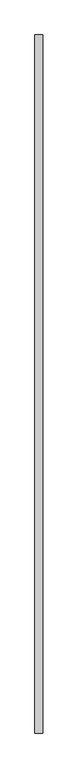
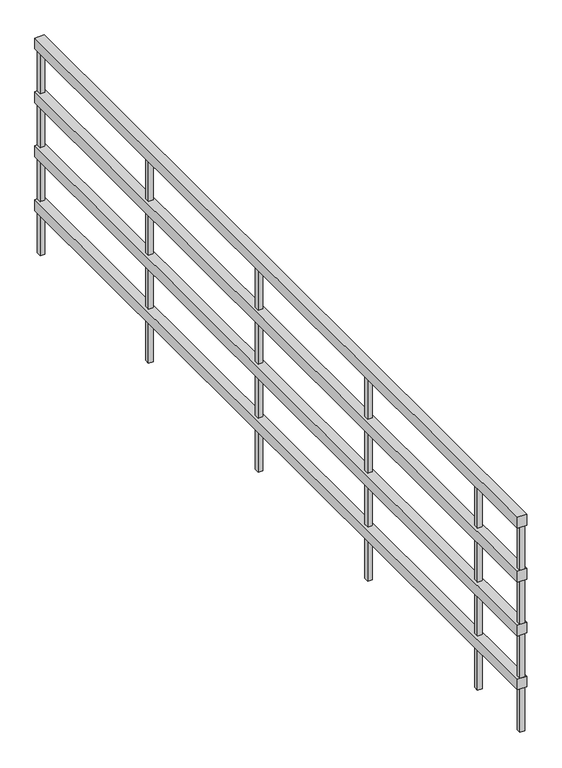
"""IFC4 building model written with IfcOpenShell, lengths in millimetres: railing geometry, RL780-금속재 난간."""

from ifc_helpers import new_model, si_unit, frame, origin, place, context, project, spatial, polyline, outline, extrude, source, transform, mapped, element, save


def railing_322e9031(model_context):
    return source(origin(), model_context, "Body", "SweptSolid", [
        extrude(outline(polyline([(15125.0, 10200.0), (15175.0, 10200.0), (15175.0, 5800.0), (15125.0, 5800.0), (15125.0, 10200.0)])), frame((0.0, 0.0, 990.0), z_axis=(0.0, 0.0, 1.0), x_axis=(1.0, 0.0, 0.0)), (0.0, 0.0, 1.0), 60.0),
        extrude(outline(polyline([(15125.0, 10200.0), (15175.0, 10200.0), (15175.0, 5800.0), (15125.0, 5800.0), (15125.0, 10200.0)])), frame((0.0, 0.0, 690.0), z_axis=(0.0, 0.0, 1.0), x_axis=(1.0, 0.0, 0.0)), (0.0, 0.0, 1.0), 60.0),
        extrude(outline(polyline([(15125.0, 10200.0), (15175.0, 10200.0), (15175.0, 5800.0), (15125.0, 5800.0), (15125.0, 10200.0)])), frame((0.0, 0.0, 390.0), z_axis=(0.0, 0.0, 1.0), x_axis=(1.0, 0.0, 0.0)), (0.0, 0.0, 1.0), 60.0),
        extrude(outline(polyline([(15125.0, 10200.0), (15175.0, 10200.0), (15175.0, 5800.0), (15125.0, 5800.0), (15125.0, 10200.0)])), frame((0.0, 0.0, 90.0), z_axis=(0.0, 0.0, 1.0), x_axis=(1.0, 0.0, 0.0)), (0.0, 0.0, 1.0), 60.0),
        extrude(outline(polyline([(15162.5, 6212.5), (15162.5, 6187.5), (15137.5, 6187.5), (15137.5, 6212.5), (15162.5, 6212.5)])), frame((0.0, 0.0, -150.0), z_axis=(0.0, 0.0, 1.0), x_axis=(1.0, 0.0, 0.0)), (0.0, 0.0, 1.0), 1140.0),
        extrude(outline(polyline([(15162.5, 7212.5), (15162.5, 7187.5), (15137.5, 7187.5), (15137.5, 7212.5), (15162.5, 7212.5)])), frame((0.0, 0.0, -150.0), z_axis=(0.0, 0.0, 1.0), x_axis=(1.0, 0.0, 0.0)), (0.0, 0.0, 1.0), 1140.0),
        extrude(outline(polyline([(15162.5, 8212.5), (15162.5, 8187.5), (15137.5, 8187.5), (15137.5, 8212.5), (15162.5, 8212.5)])), frame((0.0, 0.0, -150.0), z_axis=(0.0, 0.0, 1.0), x_axis=(1.0, 0.0, 0.0)), (0.0, 0.0, 1.0), 1140.0),
        extrude(outline(polyline([(15162.5, 9212.5), (15162.5, 9187.5), (15137.5, 9187.5), (15137.5, 9212.5), (15162.5, 9212.5)])), frame((0.0, 0.0, -150.0), z_axis=(0.0, 0.0, 1.0), x_axis=(1.0, 0.0, 0.0)), (0.0, 0.0, 1.0), 1140.0),
        extrude(outline(polyline([(15162.5, 5825.0), (15162.5, 5800.0), (15137.5, 5800.0), (15137.5, 5825.0), (15162.5, 5825.0)])), frame((0.0, 0.0, -150.0), z_axis=(0.0, 0.0, 1.0), x_axis=(1.0, 0.0, 0.0)), (0.0, 0.0, 1.0), 1140.0),
        extrude(outline(polyline([(15162.5, 10200.0), (15162.5, 10175.0), (15137.5, 10175.0), (15137.5, 10200.0), (15162.5, 10200.0)])), frame((0.0, 0.0, -150.0), z_axis=(0.0, 0.0, 1.0), x_axis=(1.0, 0.0, 0.0)), (0.0, 0.0, 1.0), 1140.0),
    ])


if __name__ == "__main__":
    model = new_model("IFC4")
    model_context = context("Model", 3, world=origin())
    ifc_project = project(units=[si_unit("LENGTHUNIT", "METRE", prefix="MILLI")], contexts=[model_context])
    site = spatial("IfcSite", under=ifc_project)
    building = spatial("IfcBuilding", under=site)
    placement = place(None, origin())
    railing_shape = railing_322e9031(model_context)
    element("IfcRailing", 1, ObjectType="RL780-금속재 난간", at=placement, inside=building, context=model_context, shape_type="MappedRepresentation", body=[
        mapped(railing_shape, transform((0.0, 0.0, 0.0), x_axis=(1.0, 0.0, 0.0), y_axis=(0.0, 1.0, 0.0), z_axis=(0.0, 0.0, 1.0))),
    ])
    save(model, "model.ifc")
